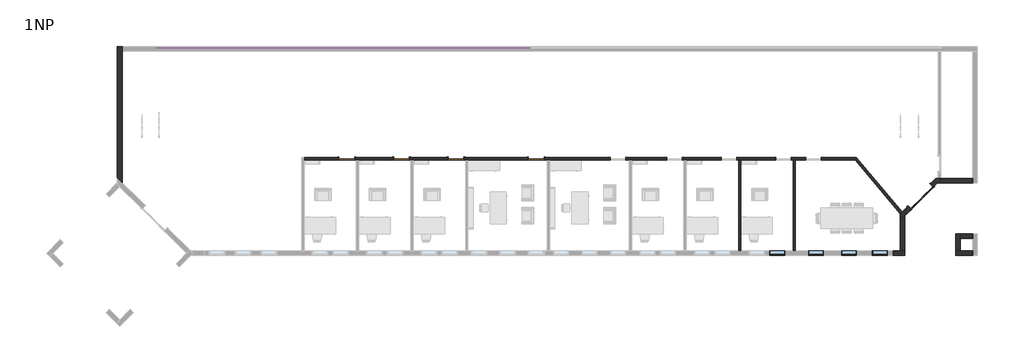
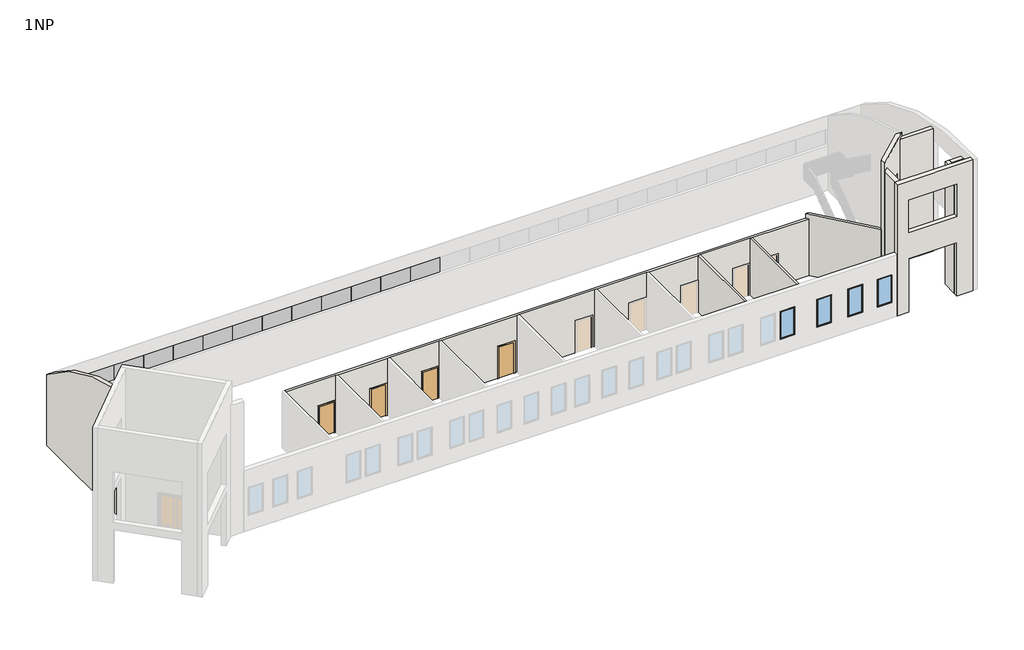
# One storey, part 2 of 3: 12 plates, 11 walls, 5 doors, 4 windows.
"""IFC4 building model written with IfcOpenShell, lengths in millimetres."""

from ifc_helpers import new_model, si_unit, frame, origin, origin_with_axes, place, context, project, spatial, polyline, circle_curve, ellipse_curve, outline, extrude, faceted_brep, transform, mapped, element, save
from ifc_brep_helpers import plane_surface, cylinder_surface, advanced_brep
from components import m_double_glass_1_1830_x_2134mm_3c2632e2, m_single_flush_0915_x_2032mm_1012e85d, system_panel_glazed_e7f7cd54, m_fixed_0915_x_1830mm_7ee91fd3

model = new_model("IFC4")

# Units and contexts
model_context = context("Model", 3, world=origin())
ifc_project = project(units=[si_unit("LENGTHUNIT", "METRE", prefix="MILLI")], contexts=[model_context])

# Site, building, storey
site = spatial("IfcSite", under=ifc_project)
building = spatial("IfcBuilding", under=site)
storey = spatial("IfcBuildingStorey", under=building, Name="1NP", Elevation=0.0)

# Doors
placement = place(None, origin())
m_double_glass_1_1830_x_2134mm_shape = m_double_glass_1_1830_x_2134mm_3c2632e2(model_context)
element("IfcDoor", 1, ObjectType="M_Double-Glass 1 : 1830 x 2134mm", at=placement, inside=storey, context=model_context, shape_type="MappedRepresentation", body=[
    mapped(m_double_glass_1_1830_x_2134mm_shape, transform((35397.5898577, -1433.3591998, 0.0), x_axis=(0.7071067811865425, 0.7071067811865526, 0.0), y_axis=(-0.7071067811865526, 0.7071067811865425, 0.0), z_axis=(0.0, 0.0, 1.0))),
])
m_single_flush_0915_x_2032mm_shape = m_single_flush_0915_x_2032mm_1012e85d(model_context)
element("IfcDoor", 2, ObjectType="M_Single-Flush : 0915 x 2032mm", at=placement, inside=storey, context=model_context, shape_type="MappedRepresentation", body=[
    mapped(m_single_flush_0915_x_2032mm_shape, transform((1762.4255273, 791.5551306, 0.0), x_axis=(1.0, 0.0, 0.0), y_axis=(0.0, 1.0, 0.0), z_axis=(0.0, 0.0, 1.0))),
])
element("IfcDoor", 3, ObjectType="M_Single-Flush : 0915 x 2032mm", at=placement, inside=storey, context=model_context, shape_type="MappedRepresentation", body=[
    mapped(m_single_flush_0915_x_2032mm_shape, transform((4962.4255273, 791.5551306, 0.0), x_axis=(1.0, 0.0, 0.0), y_axis=(0.0, 1.0, 0.0), z_axis=(0.0, 0.0, 1.0))),
])
element("IfcDoor", 4, ObjectType="M_Single-Flush : 0915 x 2032mm", at=placement, inside=storey, context=model_context, shape_type="MappedRepresentation", body=[
    mapped(m_single_flush_0915_x_2032mm_shape, transform((8162.4255273, 791.5551306, 0.0), x_axis=(1.0, 0.0, 0.0), y_axis=(0.0, 1.0, 0.0), z_axis=(0.0, 0.0, 1.0))),
])
element("IfcDoor", 5, ObjectType="M_Single-Flush : 0915 x 2032mm", at=placement, inside=storey, context=model_context, shape_type="MappedRepresentation", body=[
    mapped(m_single_flush_0915_x_2032mm_shape, transform((12862.4255273, 791.5551306, 0.0), x_axis=(1.0, 0.0, 0.0), y_axis=(0.0, 1.0, 0.0), z_axis=(0.0, 0.0, 1.0))),
])

# Plates
system_panel_glazed_shape = system_panel_glazed_e7f7cd54(model_context)
element("IfcPlate", 6, ObjectType="System Panel : Glazed", at=placement, inside=storey, context=model_context, shape_type="MappedRepresentation", body=[
    mapped(system_panel_glazed_shape, transform((-8495.8244727, 7241.5551306, 2916.2475184), x_axis=(1.0, 0.0, 0.0), y_axis=(0.0, 1.0, 0.0), z_axis=(0.0, 0.0, 1.0))),
])
element("IfcPlate", 7, ObjectType="System Panel : Glazed", at=placement, inside=storey, context=model_context, shape_type="MappedRepresentation", body=[
    mapped(system_panel_glazed_shape, transform((-6665.8244727, 7241.5551306, 2916.2475184), x_axis=(1.0, 0.0, 0.0), y_axis=(0.0, 1.0, 0.0), z_axis=(0.0, 0.0, 1.0))),
])
element("IfcPlate", 8, ObjectType="System Panel : Glazed", at=placement, inside=storey, context=model_context, shape_type="MappedRepresentation", body=[
    mapped(system_panel_glazed_shape, transform((-4835.8244727, 7241.5551306, 2916.2475184), x_axis=(1.0, 0.0, 0.0), y_axis=(0.0, 1.0, 0.0), z_axis=(0.0, 0.0, 1.0))),
])
element("IfcPlate", 9, ObjectType="System Panel : Glazed", at=placement, inside=storey, context=model_context, shape_type="MappedRepresentation", body=[
    mapped(system_panel_glazed_shape, transform((-3005.8244727, 7241.5551306, 2916.2475184), x_axis=(1.0, 0.0, 0.0), y_axis=(0.0, 1.0, 0.0), z_axis=(0.0, 0.0, 1.0))),
])
element("IfcPlate", 10, ObjectType="System Panel : Glazed", at=placement, inside=storey, context=model_context, shape_type="MappedRepresentation", body=[
    mapped(system_panel_glazed_shape, transform((-1175.8244727, 7241.5551306, 2916.2475184), x_axis=(1.0, 0.0, 0.0), y_axis=(0.0, 1.0, 0.0), z_axis=(0.0, 0.0, 1.0))),
])
element("IfcPlate", 11, ObjectType="System Panel : Glazed", at=placement, inside=storey, context=model_context, shape_type="MappedRepresentation", body=[
    mapped(system_panel_glazed_shape, transform((654.1755273, 7241.5551306, 2916.2475184), x_axis=(1.0, 0.0, 0.0), y_axis=(0.0, 1.0, 0.0), z_axis=(0.0, 0.0, 1.0))),
])
element("IfcPlate", 12, ObjectType="System Panel : Glazed", at=placement, inside=storey, context=model_context, shape_type="MappedRepresentation", body=[
    mapped(system_panel_glazed_shape, transform((2484.1755273, 7241.5551306, 2916.2475184), x_axis=(1.0, 0.0, 0.0), y_axis=(0.0, 1.0, 0.0), z_axis=(0.0, 0.0, 1.0))),
])
element("IfcPlate", 13, ObjectType="System Panel : Glazed", at=placement, inside=storey, context=model_context, shape_type="MappedRepresentation", body=[
    mapped(system_panel_glazed_shape, transform((4314.1755273, 7241.5551306, 2916.2475184), x_axis=(1.0, 0.0, 0.0), y_axis=(0.0, 1.0, 0.0), z_axis=(0.0, 0.0, 1.0))),
])
element("IfcPlate", 14, ObjectType="System Panel : Glazed", at=placement, inside=storey, context=model_context, shape_type="MappedRepresentation", body=[
    mapped(system_panel_glazed_shape, transform((6144.1755273, 7241.5551306, 2916.2475184), x_axis=(1.0, 0.0, 0.0), y_axis=(0.0, 1.0, 0.0), z_axis=(0.0, 0.0, 1.0))),
])
element("IfcPlate", 15, ObjectType="System Panel : Glazed", at=placement, inside=storey, context=model_context, shape_type="MappedRepresentation", body=[
    mapped(system_panel_glazed_shape, transform((7974.1755273, 7241.5551306, 2916.2475184), x_axis=(1.0, 0.0, 0.0), y_axis=(0.0, 1.0, 0.0), z_axis=(0.0, 0.0, 1.0))),
])
element("IfcPlate", 16, ObjectType="System Panel : Glazed", at=placement, inside=storey, context=model_context, shape_type="MappedRepresentation", body=[
    mapped(system_panel_glazed_shape, transform((9804.1755273, 7241.5551306, 2916.2475184), x_axis=(1.0, 0.0, 0.0), y_axis=(0.0, 1.0, 0.0), z_axis=(0.0, 0.0, 1.0))),
])
element("IfcPlate", 17, ObjectType="System Panel : Glazed", at=placement, inside=storey, context=model_context, shape_type="MappedRepresentation", body=[
    mapped(system_panel_glazed_shape, transform((11634.1755273, 7241.5551306, 2916.2475184), x_axis=(1.0, 0.0, 0.0), y_axis=(0.0, 1.0, 0.0), z_axis=(0.0, 0.0, 1.0))),
])

# Walls
element("IfcWall", 18, ObjectType="Exterior - EIFS on Mtl. Stud", at=placement, inside=storey, context=model_context, shape_type="AdvancedBrep", body=[
    advanced_brep(
    [(38455.6755273, -4624.9448694, 0.0), (37722.6755273, -4624.9448694, 0.0), (37455.6755273, -4624.9448694, 0.0), (37455.6755273, -4624.9448694, 3500.0), (34472.6755273, -4624.9448694, 3500.0), (34472.6755273, -4624.9448694, 0.0), (34205.6755273, -4624.9448694, 0.0), (33755.6755273, -4624.9448694, 0.0), (33755.6755273, -4624.9448694, 4000.0), (33755.6755273, -4624.9448694, 8000.0), (33755.6755273, -4624.9448694, 8556.4380679), (38455.6755273, -4624.9448694, 8556.4380679), (37455.6755273, -4624.9448694, 7300.0), (34472.6755273, -4624.9448694, 7300.0), (34472.6755273, -4624.9448694, 5200.0), (37455.6755273, -4624.9448694, 5200.0), (38455.6755273, -4891.9448694, 0.0), (38455.6755273, -4891.9448694, 8541.7849302), (33755.6755273, -4891.9448694, 8541.7849302), (33755.6755273, -4891.9448694, 8000.0), (33755.6755273, -4891.9448694, 4000.0), (33755.6755273, -4891.9448694, 0.0), (34472.6755273, -4891.9448694, 0.0), (34472.6755273, -4891.9448694, 3500.0), (37455.6755273, -4891.9448694, 3500.0), (37455.6755273, -4891.9448694, 0.0), (37455.6755273, -4891.9448694, 7300.0), (37455.6755273, -4891.9448694, 5200.0), (34472.6755273, -4891.9448694, 5200.0), (34472.6755273, -4891.9448694, 7300.0)],
    [
        (0, 1),
        (1, 2),
        (2, 3),
        (3, 4),
        (4, 5),
        (5, 6),
        (6, 7),
        (7, 8),
        (8, 9),
        (9, 10),
        (10, 11),
        (11, 0),
        (12, 13),
        (13, 14),
        (14, 15),
        (15, 12),
        (16, 17),
        (17, 18),
        (18, 19),
        (19, 20),
        (20, 21),
        (21, 22),
        (22, 23),
        (23, 24),
        (24, 25),
        (25, 16),
        (26, 27),
        (27, 28),
        (28, 29),
        (29, 26),
        (0, 16),
        (25, 2),
        (3, 24),
        (23, 4),
        (22, 5),
        (21, 7),
        (12, 26),
        (29, 13),
        (14, 28),
        (27, 15),
        (18, 10, circle_curve(frame((33755.6755273, -3782.5530793, -9232.9575956), z_axis=(-1.0, 0.0, 0.0), x_axis=(0.0, -1.0, 0.0)), 17809.3296337)),
        (11, 17, circle_curve(frame((38455.6755273, -3782.5530793, -9232.9575956), z_axis=(1.0, 0.0, 0.0), x_axis=(0.0, -1.0, 0.0)), 17809.3296337)),
    ],
    [
        plane_surface(frame((12455.6755273, -4624.9448694, 0.0), z_axis=(0.0, 1.0, 0.0), x_axis=(-1.0, 0.0, 0.0))),
        plane_surface(frame((12455.6755273, -4891.9448694, 0.0), z_axis=(0.0, -1.0, 0.0), x_axis=(1.0, 0.0, 0.0))),
        plane_surface(frame((38589.1755273, -4624.9448694, 0.0), z_axis=(0.0, 0.0, -1.0), x_axis=(0.0, -1.0, 0.0))),
        plane_surface(frame((37589.1755273, -4624.9448694, 3500.0), z_axis=(0.0, 0.0, -1.0), x_axis=(0.0, -1.0, 0.0))),
        plane_surface(frame((34472.6755273, -4624.9448694, 3500.0), z_axis=(1.0, 0.0, 0.0), x_axis=(0.0, -1.0, 0.0))),
        plane_surface(frame((34472.6755273, -4624.9448694, 0.0), z_axis=(0.0, 0.0, -1.0), x_axis=(0.0, -1.0, 0.0))),
        plane_surface(frame((37589.1755273, -4624.9448694, 7300.0), z_axis=(0.0, 0.0, -1.0), x_axis=(0.0, -1.0, 0.0))),
        plane_surface(frame((34339.1755273, -4624.9448694, 5200.0), z_axis=(0.0, 0.0, 1.0), x_axis=(0.0, -1.0, 0.0))),
        plane_surface(frame((33755.6755273, -4624.9448694, 0.0), z_axis=(-1.0, 0.0, 0.0), x_axis=(0.0, -1.0, 0.0))),
        plane_surface(frame((34472.6755273, -4758.4448694, 0.0), z_axis=(1.0, 0.0, 0.0), x_axis=(0.0, 1.0, 0.0))),
        plane_surface(frame((37455.6755273, -4758.4448694, 0.0), z_axis=(-1.0, 0.0, 0.0), x_axis=(0.0, -1.0, 0.0))),
        plane_surface(frame((38455.6755273, 5741.5551306, 0.0), z_axis=(1.0, 0.0, 0.0), x_axis=(0.0, -1.0, 0.0))),
        cylinder_surface(frame((39922.6755273, -3782.5530793, -9232.9575956), z_axis=(1.0, 0.0, 0.0), x_axis=(0.0, -1.0, 0.0)), 17809.3296337),
    ],
    [
        (0, [[1, 2, 3, 4, 5, 6, 7, 8, 9, 10, 11, 12], [13, 14, 15, 16]]),
        (1, [[17, 18, 19, 20, 21, 22, 23, 24, 25, 26], [27, 28, 29, 30]]),
        (2, [[-2, -1, 31, -26, 32]]),
        (3, [[-4, 33, -24, 34]]),
        (4, [[-5, -34, -23, 35]]),
        (5, [[-7, -6, -35, -22, 36]]),
        (6, [[-13, 37, -30, 38]]),
        (7, [[-15, 39, -28, 40]]),
        (8, [[-36, -21, -20, -19, 41, -10, -9, -8]]),
        (9, [[-14, -38, -29, -39]]),
        (10, [[-3, -32, -25, -33]]),
        (10, [[-16, -40, -27, -37]]),
        (11, [[-12, 42, -17, -31]]),
        (12, [[-11, -41, -18, -42]]),
    ],
),
])
element("IfcWall", 19, ObjectType="Exterior - EIFS on Mtl. Stud", at=placement, inside=storey, context=model_context, shape_type="AdvancedBrep", body=[
    advanced_brep(
    [(-11410.8244727, -601.928028, 0.0), (-11410.8244727, 7108.0551306, 0.0), (-11410.8244727, 7375.0551306, 0.0), (-11410.8244727, 7375.0551306, 4647.9646014), (-11410.8244727, 7108.0445023, 4858.4264309), (-11410.8244727, -601.928028, 8290.0514578), (-11677.8244727, -334.928028, 0.0), (-11677.8244727, -334.928028, 8239.4808006), (-11677.8244727, 7375.0551306, 4647.9646014), (-11677.8244727, 7375.0551306, 0.0)],
    [
        (0, 1),
        (1, 2),
        (2, 3),
        (3, 4, circle_curve(frame((-11410.8244727, -3782.5530793, -9232.9575956), z_axis=(1.0, 0.0, 0.0), x_axis=(0.0, -1.0, 0.0)), 17809.3296337)),
        (4, 5, circle_curve(frame((-11410.8244727, -3782.5530793, -9232.9575956), z_axis=(1.0, 0.0, 0.0), x_axis=(0.0, -1.0, 0.0)), 17809.3295625)),
        (5, 0),
        (6, 7),
        (7, 8, circle_curve(frame((-11677.8244727, -3782.5530793, -9232.9575956), z_axis=(-1.0, 0.0, 0.0), x_axis=(0.0, -1.0, 0.0)), 17809.3296337)),
        (8, 9),
        (9, 6),
        (0, 6),
        (9, 2),
        (8, 3),
        (5, 7, ellipse_curve(frame((-8230.1994214, -3782.5530793, -9232.9575956), z_axis=(-0.7071067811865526, -0.7071067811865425, 0.0), x_axis=(0.7071067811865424, -0.7071067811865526, 0.0)), 25186.1955048, 17809.3296337)),
    ],
    [
        plane_surface(frame((-11410.8244727, -6258.4448694, 0.0), z_axis=(1.0, 0.0, 0.0), x_axis=(0.0, 1.0, 0.0))),
        plane_surface(frame((-11677.8244727, -6258.4448694, 0.0), z_axis=(-1.0, 0.0, 0.0), x_axis=(0.0, -1.0, 0.0))),
        plane_surface(frame((-11410.8244727, -657.2255385, 0.0), z_axis=(0.0, 0.0, -1.0), x_axis=(-1.0, 0.0, 0.0))),
        plane_surface(frame((-5544.3244727, 7375.0551306, 0.0), z_axis=(0.0, 1.0, 0.0), x_axis=(-1.0, 0.0, 0.0))),
        plane_surface(frame((-12510.5858892, 497.8333885, 0.0), z_axis=(-0.7071067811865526, -0.7071067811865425, 0.0), x_axis=(-0.7071067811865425, 0.7071067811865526, 0.0))),
        cylinder_surface(frame((39922.6755273, -3782.5530793, -9232.9575956), z_axis=(1.0, 0.0, 0.0), x_axis=(0.0, -1.0, 0.0)), 17809.3296337),
    ],
    [
        (0, [[1, 2, 3, 4, 5, 6]]),
        (1, [[7, 8, 9, 10]]),
        (2, [[-2, -1, 11, -10, 12]]),
        (3, [[-3, -12, -9, 13]]),
        (4, [[-6, 14, -7, -11]]),
        (5, [[-5, -4, -13, -8, -14]]),
    ],
),
])
element("IfcWall", 20, ObjectType="Exterior - EIFS on Mtl. Stud", at=placement, inside=storey, context=model_context, shape_type="Brep", body=[
    faceted_brep([(37722.6755273, -4624.9448694, 8000.0), (37722.6755273, -4624.9448694, 0.0), (37722.6755273, -3891.9448694, 0.0), (37722.6755273, -3624.9448694, 0.0), (37722.6755273, -3624.9448694, 8000.0), (37722.6755273, -3891.9448694, 8000.0), (37455.6755273, -4624.9448694, 0.0), (37455.6755273, -4624.9448694, 3500.0), (37455.6755273, -4624.9448694, 5200.0), (37455.6755273, -4624.9448694, 7300.0), (37455.6755273, -4624.9448694, 8000.0), (37455.6755273, -3624.9448694, 8000.0), (37455.6755273, -3624.9448694, 0.0)], [[[0, 1, 2, 3, 4, 5]], [[6, 7, 8, 9, 10, 11, 12]], [[3, 2, 1, 6, 12]], [[0, 5, 4, 11, 10]], [[4, 3, 12, 11]], [[0, 10, 9, 8, 7, 6, 1]]]),
])
element("IfcWall", 21, ObjectType="Exterior - EIFS on Mtl. Stud", at=placement, inside=storey, context=model_context, shape_type="Brep", body=[
    faceted_brep([(37722.6755273, -3891.9448694, 0.0), (38455.6755273, -3891.9448694, 0.0), (38455.6755273, -3891.9448694, 8000.0), (37722.6755273, -3891.9448694, 8000.0), (37722.6755273, -3624.9448694, 0.0), (37722.6755273, -3624.9448694, 8000.0), (38455.6755273, -3624.9448694, 8000.0), (38455.6755273, -3624.9448694, 7300.0), (38455.6755273, -3624.9448694, 5200.0), (38455.6755273, -3624.9448694, 3500.0), (38455.6755273, -3624.9448694, 0.0)], [[[0, 1, 2, 3]], [[4, 5, 6, 7, 8, 9, 10]], [[1, 0, 4, 10]], [[3, 2, 6, 5]], [[0, 3, 5, 4]], [[1, 10, 9, 8, 7, 6, 2]]]),
])
element("IfcWall", 22, ObjectType="Exterior - EIFS on Mtl. Stud", at=placement, inside=storey, context=model_context, shape_type="AdvancedBrep", body=[
    advanced_brep(
    [(36270.5742736, -374.9448694, 0.0), (35951.8776052, -693.6415378, 0.0), (35951.8776052, -693.6415378, 2134.0), (34657.8721956, -1987.6469473, 2134.0), (34657.8721956, -1987.6469473, 0.0), (34302.1897841, -2343.3293589, 0.0), (34205.6755273, -2439.8436157, 0.0), (34205.6755273, -2439.8436157, 4000.0), (34205.6755273, -2439.8436157, 8000.0), (34205.6755273, -2439.8436157, 8525.6840557), (36270.5742736, -374.9448694, 8247.3292525), (35823.8290879, -821.6900551, 4000.0), (35823.8290879, -821.6900551, 6134.0), (34529.8236783, -2115.6954646, 6134.0), (34529.8236783, -2115.6954646, 4000.0), (36140.6751158, -882.4390484, 2134.0), (36140.6751158, -882.4390484, 0.0), (36381.1692947, -641.9448694, 0.0), (36648.1692947, -374.9448694, 0.0), (36648.1692947, -374.9448694, 8000.0), (36648.1692947, -374.9448694, 8247.3292525), (34205.6755273, -2817.4386368, 8550.2023068), (34205.6755273, -2817.4386368, 8000.0), (34205.6755273, -2817.4386368, 0.0), (34472.6755273, -2550.4386368, 0.0), (34846.6697062, -2176.4444579, 0.0), (34846.6697062, -2176.4444579, 2134.0), (36012.6265985, -1010.4875656, 4000.0), (34718.6211889, -2304.4929752, 4000.0), (34718.6211889, -2304.4929752, 6134.0), (36012.6265985, -1010.4875656, 6134.0), (36419.9255273, -374.9448694, 0.0), (36558.4255273, -374.9448694, 0.0), (34205.6755273, -2443.7758967, 0.0), (36419.9255273, -374.9448694, 8247.3292525), (36558.4255273, -374.9448694, 8247.3292525)],
    [
        (0, 1),
        (1, 2),
        (2, 3),
        (3, 4),
        (4, 5),
        (5, 6),
        (6, 7),
        (7, 8),
        (8, 9),
        (9, 10, ellipse_curve(frame((32862.9660637, -3782.5530793, -9232.9575956), z_axis=(-0.7071067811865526, 0.7071067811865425, 0.0), x_axis=(0.7071067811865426, 0.7071067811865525, 0.0)), 25186.1955048, 17809.3296337)),
        (10, 0),
        (11, 12),
        (12, 13),
        (13, 14),
        (14, 11),
        (15, 16),
        (16, 17),
        (17, 18),
        (18, 19),
        (19, 20),
        (20, 21, ellipse_curve(frame((33240.5610849, -3782.5530793, -9232.9575956), z_axis=(0.7071067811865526, -0.7071067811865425, 0.0), x_axis=(0.7071067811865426, 0.7071067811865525, 0.0)), 25186.1955048, 17809.3296337)),
        (21, 22),
        (22, 23),
        (23, 24),
        (24, 25),
        (25, 26),
        (26, 15),
        (27, 28),
        (28, 29),
        (29, 30),
        (30, 27),
        (16, 1),
        (0, 31),
        (31, 32),
        (32, 18),
        (23, 33),
        (33, 6),
        (4, 25),
        (10, 34),
        (34, 35),
        (35, 20),
        (21, 9, circle_curve(frame((34205.6755273, -3782.5530793, -9232.9575956), z_axis=(-1.0, 0.0, 0.0), x_axis=(0.0, -1.0, 0.0)), 17809.3296337)),
        (15, 2),
        (26, 3),
        (27, 11),
        (14, 28),
        (13, 29),
        (12, 30),
    ],
    [
        plane_surface(frame((38416.1447376, 1770.6255947, 0.0), z_axis=(-0.7071067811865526, 0.7071067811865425, 0.0), x_axis=(-0.7071067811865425, -0.7071067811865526, 0.0))),
        plane_surface(frame((38604.9422482, 1581.8280841, 0.0), z_axis=(0.7071067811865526, -0.7071067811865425, 0.0), x_axis=(0.7071067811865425, 0.7071067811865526, 0.0))),
        plane_surface(frame((36231.4730288, -414.0461141, 0.0), z_axis=(0.0, 0.0, -1.0), x_axis=(0.7071067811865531, -0.707106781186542, 0.0))),
        plane_surface(frame((38455.6755273, -374.9448694, 0.0), z_axis=(0.0, 1.0, 0.0), x_axis=(-1.0, 0.0, 0.0))),
        plane_surface(frame((34205.6755273, -4758.4448694, 0.0), z_axis=(-1.0, 0.0, 0.0), x_axis=(0.0, -1.0, 0.0))),
        cylinder_surface(frame((39922.6755273, -3782.5530793, -9232.9575956), z_axis=(1.0, 0.0, 0.0), x_axis=(0.0, -1.0, 0.0)), 17809.3296337),
        plane_surface(frame((35951.8776052, -693.6415378, 0.0), z_axis=(-0.7071067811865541, -0.7071067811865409, 0.0), x_axis=(0.7071067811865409, -0.7071067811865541, 0.0))),
        plane_surface(frame((35951.8776052, -693.6415378, 2134.0), z_axis=(0.0, 0.0, -1.0), x_axis=(0.7071067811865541, -0.7071067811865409, 0.0))),
        plane_surface(frame((34657.8721956, -1987.6469473, 2134.0), z_axis=(0.707106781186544, 0.7071067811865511, 0.0), x_axis=(0.7071067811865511, -0.707106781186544, 0.0))),
        plane_surface(frame((36012.6265985, -1010.4875656, 4000.0), z_axis=(0.0, 0.0, 1.0), x_axis=(-0.7071067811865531, 0.707106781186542, 0.0))),
        plane_surface(frame((34718.6211889, -2304.4929752, 4000.0), z_axis=(0.707106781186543, 0.7071067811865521, 0.0), x_axis=(-0.7071067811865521, 0.707106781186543, 0.0))),
        plane_surface(frame((34718.6211889, -2304.4929752, 6134.0), z_axis=(0.0, 0.0, -1.0000000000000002), x_axis=(-0.707106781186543, 0.7071067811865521, 0.0))),
        plane_surface(frame((36012.6265985, -1010.4875656, 6134.0), z_axis=(-0.707106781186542, -0.7071067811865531, 0.0), x_axis=(-0.7071067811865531, 0.707106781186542, 0.0))),
    ],
    [
        (0, [[1, 2, 3, 4, 5, 6, 7, 8, 9, 10, 11], [12, 13, 14, 15]]),
        (1, [[16, 17, 18, 19, 20, 21, 22, 23, 24, 25, 26, 27], [28, 29, 30, 31]]),
        (2, [[-18, -17, 32, -1, 33, 34, 35]]),
        (2, [[-25, -24, 36, 37, -6, -5, 38]]),
        (3, [[-11, 39, 40, 41, -20, -19, -35, -34, -33]]),
        (4, [[-37, -36, -23, -22, 42, -9, -8, -7]]),
        (5, [[-10, -42, -21, -41, -40, -39]]),
        (6, [[-2, -32, -16, 43]]),
        (7, [[-3, -43, -27, 44]]),
        (8, [[-4, -44, -26, -38]]),
        (9, [[-28, 45, -15, 46]]),
        (10, [[-29, -46, -14, 47]]),
        (11, [[-30, -47, -13, 48]]),
        (12, [[-31, -48, -12, -45]]),
    ],
),
])
element("IfcWall", 23, ObjectType="Exterior - EIFS on Mtl. Stud", at=placement, inside=storey, context=model_context, shape_type="Brep", body=[
    faceted_brep([(38455.6755273, -374.9448694, 8000.0), (38455.6755273, -374.9448694, 0.0), (36648.1692947, -374.9448694, 0.0), (36648.1692947, -374.9448694, 8000.0), (38455.6755273, -641.9448694, 0.0), (38455.6755273, -641.9448694, 3500.0), (38455.6755273, -641.9448694, 5200.0), (38455.6755273, -641.9448694, 7300.0), (38455.6755273, -641.9448694, 8000.0), (36381.1692947, -641.9448694, 8000.0), (36381.1692947, -641.9448694, 0.0)], [[[0, 1, 2, 3]], [[4, 5, 6, 7, 8, 9, 10]], [[2, 1, 4, 10]], [[0, 3, 9, 8]], [[3, 2, 10, 9]], [[0, 8, 7, 6, 5, 4, 1]]]),
])
element("IfcWall", 24, ObjectType="Exterior - EIFS on Mtl. Stud", at=placement, inside=storey, context=model_context, shape_type="Brep", body=[
    faceted_brep([(34472.6755273, -4624.9448694, 8000.0), (34472.6755273, -4624.9448694, 7300.0), (34472.6755273, -4624.9448694, 5200.0), (34472.6755273, -4624.9448694, 3500.0), (34472.6755273, -4624.9448694, 0.0), (34472.6755273, -2550.4386368, 0.0), (34472.6755273, -2550.4386368, 8000.0), (34205.6755273, -4624.9448694, 0.0), (34205.6755273, -4624.9448694, 8000.0), (34205.6755273, -2817.4386368, 8000.0), (34205.6755273, -2817.4386368, 0.0)], [[[0, 1, 2, 3, 4, 5, 6]], [[7, 8, 9, 10]], [[5, 4, 7, 10]], [[0, 6, 9, 8]], [[5, 10, 9, 6]], [[0, 8, 7, 4, 3, 2, 1]]]),
])
element("IfcWall", 25, ObjectType="Interior - 138mm Partition (1-hr)", at=placement, inside=storey, context=model_context, shape_type="SweptSolid", body=[
    extrude(outline(polyline([(28058.4255273, 722.3051306), (28058.4255273, -4624.9448694), (27919.9255273, -4624.9448694), (27919.9255273, 722.3051306), (28058.4255273, 722.3051306)])), origin_with_axes(), (0.0, 0.0, 1.0), 3700.0),
])
element("IfcWall", 26, ObjectType="Interior - 138mm Partition (1-hr)", at=placement, inside=storey, context=model_context, shape_type="Brep", body=[
    faceted_brep([(34302.1897841, -2343.3293589, 0.0), (31613.6017157, 860.8051306, 0.0), (31613.6017157, 860.8051306, 4000.0), (34302.1897841, -2343.3293589, 4000.0), (34205.6755273, -2443.7758967, 0.0), (34205.6755273, -2443.7758967, 4000.0), (31432.8028061, 860.8051306, 4000.0), (31432.8028061, 860.8051306, 3700.0), (31432.8028061, 860.8051306, 0.0), (31549.018105, 722.3051306, 0.0), (34205.6755273, -2439.8436157, 0.0), (34205.6755273, -2439.8436157, 4000.0)], [[[0, 1, 2, 3]], [[4, 5, 6, 7, 8, 9]], [[1, 0, 10, 4, 9, 8]], [[3, 2, 6, 5, 11]], [[2, 1, 8, 7, 6]], [[0, 3, 11, 10]], [[11, 5, 4, 10]]]),
])
element("IfcWall", 27, ObjectType="Interior - 138mm Partition (1-hr)", at=placement, inside=storey, context=model_context, shape_type="Brep", body=[
    faceted_brep([(20504.9255273, 860.8051306, 0.0), (18119.9255273, 860.8051306, 0.0), (18119.9255273, 860.8051306, 2032.0), (17204.9255273, 860.8051306, 2032.0), (17204.9255273, 860.8051306, 0.0), (13319.9255273, 860.8051306, 0.0), (13319.9255273, 860.8051306, 2032.0), (12404.9255273, 860.8051306, 2032.0), (12404.9255273, 860.8051306, 0.0), (8619.9255273, 860.8051306, 0.0), (8619.9255273, 860.8051306, 2032.0), (7704.9255273, 860.8051306, 2032.0), (7704.9255273, 860.8051306, 0.0), (5419.9255273, 860.8051306, 0.0), (5419.9255273, 860.8051306, 2032.0), (4504.9255273, 860.8051306, 2032.0), (4504.9255273, 860.8051306, 0.0), (2219.9255273, 860.8051306, 0.0), (2219.9255273, 860.8051306, 2032.0), (1304.9255273, 860.8051306, 2032.0), (1304.9255273, 860.8051306, 0.0), (-741.5744727, 860.8051306, 0.0), (-741.5744727, 860.8051306, 3700.0), (31432.8028061, 860.8051306, 3700.0), (31432.8028061, 860.8051306, 0.0), (29573.4255273, 860.8051306, 0.0), (29573.4255273, 860.8051306, 2032.0), (28658.4255273, 860.8051306, 2032.0), (28658.4255273, 860.8051306, 0.0), (27819.9255273, 860.8051306, 0.0), (27819.9255273, 860.8051306, 2032.0), (26904.9255273, 860.8051306, 2032.0), (26904.9255273, 860.8051306, 0.0), (24619.9255273, 860.8051306, 0.0), (24619.9255273, 860.8051306, 2032.0), (23704.9255273, 860.8051306, 2032.0), (23704.9255273, 860.8051306, 0.0), (21419.9255273, 860.8051306, 0.0), (21419.9255273, 860.8051306, 2032.0), (20504.9255273, 860.8051306, 2032.0), (18119.9255273, 722.3051306, 2032.0), (18119.9255273, 722.3051306, 0.0), (18319.9255273, 722.3051306, 0.0), (18458.4255273, 722.3051306, 0.0), (20504.9255273, 722.3051306, 0.0), (20504.9255273, 722.3051306, 2032.0), (21419.9255273, 722.3051306, 2032.0), (21419.9255273, 722.3051306, 0.0), (21519.9255273, 722.3051306, 0.0), (21658.4255273, 722.3051306, 0.0), (23704.9255273, 722.3051306, 0.0), (23704.9255273, 722.3051306, 2032.0), (24619.9255273, 722.3051306, 2032.0), (24619.9255273, 722.3051306, 0.0), (24719.9255273, 722.3051306, 0.0), (24858.4255273, 722.3051306, 0.0), (26904.9255273, 722.3051306, 0.0), (26904.9255273, 722.3051306, 2032.0), (27819.9255273, 722.3051306, 2032.0), (27819.9255273, 722.3051306, 0.0), (27919.9255273, 722.3051306, 0.0), (28058.4255273, 722.3051306, 0.0), (28658.4255273, 722.3051306, 0.0), (28658.4255273, 722.3051306, 2032.0), (29573.4255273, 722.3051306, 2032.0), (29573.4255273, 722.3051306, 0.0), (31549.018105, 722.3051306, 0.0), (31549.018105, 722.3051306, 3700.0), (28058.4255273, 722.3051306, 3700.0), (27919.9255273, 722.3051306, 3700.0), (24858.4255273, 722.3051306, 3700.0), (24719.9255273, 722.3051306, 3700.0), (21658.4255273, 722.3051306, 3700.0), (21519.9255273, 722.3051306, 3700.0), (18458.4255273, 722.3051306, 3700.0), (18319.9255273, 722.3051306, 3700.0), (13658.4255273, 722.3051306, 3700.0), (13519.9255273, 722.3051306, 3700.0), (8858.4255273, 722.3051306, 3700.0), (8719.9255273, 722.3051306, 3700.0), (5658.4255273, 722.3051306, 3700.0), (5519.9255273, 722.3051306, 3700.0), (2458.4255273, 722.3051306, 3700.0), (2319.9255273, 722.3051306, 3700.0), (-741.5744727, 722.3051306, 3700.0), (-741.5744727, 722.3051306, 0.0), (1304.9255273, 722.3051306, 0.0), (1304.9255273, 722.3051306, 2032.0), (2219.9255273, 722.3051306, 2032.0), (2219.9255273, 722.3051306, 0.0), (2319.9255273, 722.3051306, 0.0), (2458.4255273, 722.3051306, 0.0), (4504.9255273, 722.3051306, 0.0), (4504.9255273, 722.3051306, 2032.0), (5419.9255273, 722.3051306, 2032.0), (5419.9255273, 722.3051306, 0.0), (5519.9255273, 722.3051306, 0.0), (5658.4255273, 722.3051306, 0.0), (7704.9255273, 722.3051306, 0.0), (7704.9255273, 722.3051306, 2032.0), (8619.9255273, 722.3051306, 2032.0), (8619.9255273, 722.3051306, 0.0), (8719.9255273, 722.3051306, 0.0), (8858.4255273, 722.3051306, 0.0), (12404.9255273, 722.3051306, 0.0), (12404.9255273, 722.3051306, 2032.0), (13319.9255273, 722.3051306, 2032.0), (13319.9255273, 722.3051306, 0.0), (13519.9255273, 722.3051306, 0.0), (13658.4255273, 722.3051306, 0.0), (17204.9255273, 722.3051306, 0.0), (17204.9255273, 722.3051306, 2032.0)], [[[0, 1, 2, 3, 4, 5, 6, 7, 8, 9, 10, 11, 12, 13, 14, 15, 16, 17, 18, 19, 20, 21, 22, 23, 24, 25, 26, 27, 28, 29, 30, 31, 32, 33, 34, 35, 36, 37, 38, 39]], [[40, 41, 42, 43, 44, 45, 46, 47, 48, 49, 50, 51, 52, 53, 54, 55, 56, 57, 58, 59, 60, 61, 62, 63, 64, 65, 66, 67, 68, 69, 70, 71, 72, 73, 74, 75, 76, 77, 78, 79, 80, 81, 82, 83, 84, 85, 86, 87, 88, 89, 90, 91, 92, 93, 94, 95, 96, 97, 98, 99, 100, 101, 102, 103, 104, 105, 106, 107, 108, 109, 110, 111]], [[62, 61, 60, 59, 29, 28]], [[25, 24, 66, 65]], [[86, 85, 21, 20]], [[92, 91, 90, 89, 17, 16]], [[98, 97, 96, 95, 13, 12]], [[50, 49, 48, 47, 37, 36]], [[56, 55, 54, 53, 33, 32]], [[104, 103, 102, 101, 9, 8]], [[44, 43, 42, 41, 1, 0]], [[110, 109, 108, 107, 5, 4]], [[23, 22, 84, 83, 82, 81, 80, 79, 78, 77, 76, 75, 74, 73, 72, 71, 70, 69, 68, 67]], [[24, 23, 67, 66]], [[22, 21, 85, 84]], [[63, 62, 28, 27]], [[64, 63, 27, 26]], [[65, 64, 26, 25]], [[18, 17, 89, 88]], [[19, 18, 88, 87]], [[20, 19, 87, 86]], [[14, 13, 95, 94]], [[15, 14, 94, 93]], [[16, 15, 93, 92]], [[10, 9, 101, 100]], [[11, 10, 100, 99]], [[12, 11, 99, 98]], [[34, 33, 53, 52]], [[35, 34, 52, 51]], [[36, 35, 51, 50]], [[30, 29, 59, 58]], [[31, 30, 58, 57]], [[32, 31, 57, 56]], [[6, 5, 107, 106]], [[7, 6, 106, 105]], [[8, 7, 105, 104]], [[38, 37, 47, 46]], [[39, 38, 46, 45]], [[0, 39, 45, 44]], [[2, 1, 41, 40]], [[3, 2, 40, 111]], [[4, 3, 111, 110]]]),
])
element("IfcWall", 28, ObjectType="Interior - 138mm Partition (1-hr)", at=placement, inside=storey, context=model_context, shape_type="SweptSolid", body=[
    extrude(outline(polyline([(24858.4255273, 722.3051306), (24858.4255273, -4624.9448694), (24719.9255273, -4624.9448694), (24719.9255273, 722.3051306), (24858.4255273, 722.3051306)])), origin_with_axes(), (0.0, 0.0, 1.0), 3700.0),
])

# Windows
m_fixed_0915_x_1830mm_shape = m_fixed_0915_x_1830mm_7ee91fd3(model_context)
element("IfcWindow", 29, ObjectType="M_Fixed : 0915 x 1830mm", at=placement, inside=storey, context=model_context, shape_type="MappedRepresentation", body=[
    mapped(m_fixed_0915_x_1830mm_shape, transform((32998.1755273, -4745.4448694, 665.0), x_axis=(-1.0, 0.0, 0.0), y_axis=(0.0, -1.0, 0.0), z_axis=(0.0, 0.0, 1.0))),
])
element("IfcWindow", 30, ObjectType="M_Fixed : 0915 x 1830mm", at=placement, inside=storey, context=model_context, shape_type="MappedRepresentation", body=[
    mapped(m_fixed_0915_x_1830mm_shape, transform((31183.1755273, -4745.4448694, 665.0), x_axis=(-1.0, 0.0, 0.0), y_axis=(0.0, -1.0, 0.0), z_axis=(0.0, 0.0, 1.0))),
])
element("IfcWindow", 31, ObjectType="M_Fixed : 0915 x 1830mm", at=placement, inside=storey, context=model_context, shape_type="MappedRepresentation", body=[
    mapped(m_fixed_0915_x_1830mm_shape, transform((29268.1755273, -4745.4448694, 665.0), x_axis=(-1.0, 0.0, 0.0), y_axis=(0.0, -1.0, 0.0), z_axis=(0.0, 0.0, 1.0))),
])
element("IfcWindow", 32, ObjectType="M_Fixed : 0915 x 1830mm", at=placement, inside=storey, context=model_context, shape_type="MappedRepresentation", body=[
    mapped(m_fixed_0915_x_1830mm_shape, transform((26989.1755273, -4745.4448694, 665.0), x_axis=(-1.0, 0.0, 0.0), y_axis=(0.0, -1.0, 0.0), z_axis=(0.0, 0.0, 1.0))),
])

save(model, "model.ifc")
